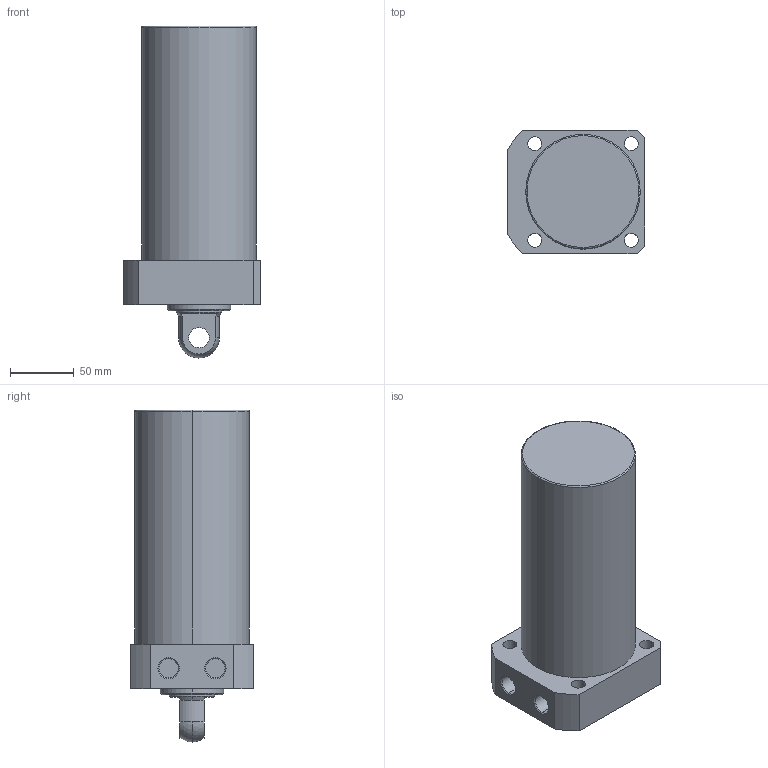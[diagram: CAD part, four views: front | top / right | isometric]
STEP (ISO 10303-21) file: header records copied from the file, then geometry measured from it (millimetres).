
FILE_DESCRIPTION (( 'STEP AP203' ), '1' );
FILE_NAME ('CLLR-090CP-140.STEP', '2019-12-18T06:59:02', ( '' ), ( '' ), 'SwSTEP 2.0', 'SolidWorks 2015', '' );
FILE_SCHEMA (( 'CONFIG_CONTROL_DESIGN' ));
Length unit declared in the file: millimetre
Products named in the file (1): CLLR-090CP-140
Bounding box: 108 x 97 x 261 mm (x, y, z)
Volume: 1534727.8 mm3; surface area: 96090.5 mm2
Topology: 1 solids, 1 shells, 59 faces, 139 edges, 89 vertices
Faces by surface type: cylinder 29, plane 18, cone 8, sphere 2, torus 2
Entity records: 1822 total; most frequent: DIRECTION 331, CARTESIAN_POINT 300, ORIENTED_EDGE 278, EDGE_CURVE 139, AXIS2_PLACEMENT_3D 136, VERTEX_POINT 89, EDGE_LOOP 76, CIRCLE 76
